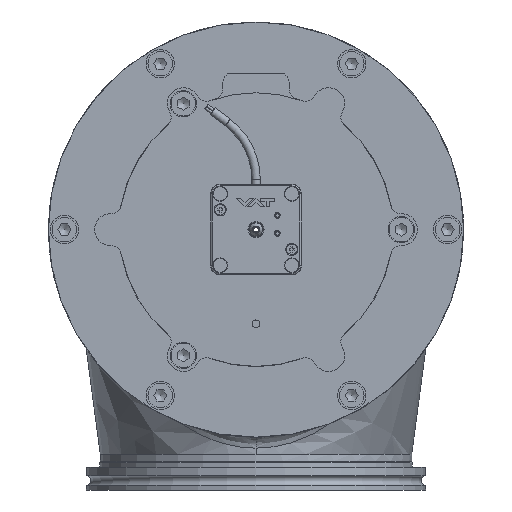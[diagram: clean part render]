
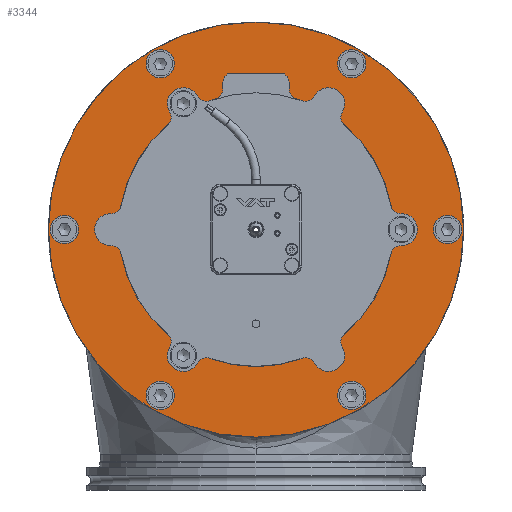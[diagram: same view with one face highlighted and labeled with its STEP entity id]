
A CAD part, left-side view. The second image highlights one B-rep face of the part: STEP entity #3344.
In plain terms, the highlighted planar face has unit normal (-1, 0, 0).
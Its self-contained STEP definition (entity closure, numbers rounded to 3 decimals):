
#3344=ADVANCED_FACE('BCT_REF_39971',(#4756,#4757,#4758,#4759,#4760,#4761,
#4762,#4763,#4764,#4765,#4766),#3894,.T.);
#3894=PLANE('',#13476);
#4222=CIRCLE('',#13465,3.4);
#4223=CIRCLE('',#13466,3.4);
#4224=CIRCLE('',#13467,3.4);
#4225=CIRCLE('',#13468,7.5);
#4226=CIRCLE('',#13469,7.5);
#4227=CIRCLE('',#13470,7.5);
#4228=CIRCLE('',#13471,7.5);
#4229=CIRCLE('',#13472,7.5);
#4230=CIRCLE('',#13473,7.5);
#4231=CIRCLE('',#13474,72.645);
#4232=CIRCLE('',#13475,110.);
#4756=FACE_BOUND('',#5539,.T.);
#4757=FACE_BOUND('',#5540,.T.);
#4758=FACE_BOUND('',#5541,.T.);
#4759=FACE_BOUND('',#5542,.T.);
#4760=FACE_BOUND('',#5543,.T.);
#4761=FACE_BOUND('',#5544,.T.);
#4762=FACE_BOUND('',#5545,.T.);
#4763=FACE_BOUND('',#5546,.T.);
#4764=FACE_BOUND('',#5547,.T.);
#4765=FACE_BOUND('',#5548,.T.);
#4766=FACE_BOUND('',#5549,.T.);
#5539=EDGE_LOOP('',(#7607));
#5540=EDGE_LOOP('',(#7608));
#5541=EDGE_LOOP('',(#7609));
#5542=EDGE_LOOP('',(#7610));
#5543=EDGE_LOOP('',(#7611));
#5544=EDGE_LOOP('',(#7612));
#5545=EDGE_LOOP('',(#7613));
#5546=EDGE_LOOP('',(#7614));
#5547=EDGE_LOOP('',(#7615));
#5548=EDGE_LOOP('',(#7616));
#5549=EDGE_LOOP('',(#7617));
#7607=ORIENTED_EDGE('',*,*,#10879,.T.);
#7608=ORIENTED_EDGE('',*,*,#10880,.T.);
#7609=ORIENTED_EDGE('',*,*,#10881,.T.);
#7610=ORIENTED_EDGE('',*,*,#10882,.T.);
#7611=ORIENTED_EDGE('',*,*,#10883,.T.);
#7612=ORIENTED_EDGE('',*,*,#10884,.T.);
#7613=ORIENTED_EDGE('',*,*,#10885,.T.);
#7614=ORIENTED_EDGE('',*,*,#10886,.T.);
#7615=ORIENTED_EDGE('',*,*,#10887,.T.);
#7616=ORIENTED_EDGE('',*,*,#10888,.T.);
#7617=ORIENTED_EDGE('',*,*,#10889,.T.);
#9581=VERTEX_POINT('',#19514);
#9582=VERTEX_POINT('',#19516);
#9583=VERTEX_POINT('',#19518);
#9584=VERTEX_POINT('',#19520);
#9585=VERTEX_POINT('',#19522);
#9586=VERTEX_POINT('',#19524);
#9587=VERTEX_POINT('',#19526);
#9588=VERTEX_POINT('',#19528);
#9589=VERTEX_POINT('',#19530);
#9590=VERTEX_POINT('',#19532);
#9591=VERTEX_POINT('',#19534);
#10879=EDGE_CURVE('',#9581,#9581,#4222,.T.);
#10880=EDGE_CURVE('',#9582,#9582,#4223,.T.);
#10881=EDGE_CURVE('',#9583,#9583,#4224,.T.);
#10882=EDGE_CURVE('',#9584,#9584,#4225,.T.);
#10883=EDGE_CURVE('',#9585,#9585,#4226,.T.);
#10884=EDGE_CURVE('BCT_REF_49088',#9586,#9586,#4227,.T.);
#10885=EDGE_CURVE('',#9587,#9587,#4228,.T.);
#10886=EDGE_CURVE('',#9588,#9588,#4229,.T.);
#10887=EDGE_CURVE('BCT_REF_49088',#9589,#9589,#4230,.T.);
#10888=EDGE_CURVE('',#9590,#9590,#4231,.T.);
#10889=EDGE_CURVE('',#9591,#9591,#4232,.T.);
#13465=AXIS2_PLACEMENT_3D('',#19513,#15725,#15726);
#13466=AXIS2_PLACEMENT_3D('',#19515,#15727,#15728);
#13467=AXIS2_PLACEMENT_3D('',#19517,#15729,#15730);
#13468=AXIS2_PLACEMENT_3D('',#19519,#15731,#15732);
#13469=AXIS2_PLACEMENT_3D('',#19521,#15733,#15734);
#13470=AXIS2_PLACEMENT_3D('',#19523,#15735,#15736);
#13471=AXIS2_PLACEMENT_3D('',#19525,#15737,#15738);
#13472=AXIS2_PLACEMENT_3D('',#19527,#15739,#15740);
#13473=AXIS2_PLACEMENT_3D('',#19529,#15741,#15742);
#13474=AXIS2_PLACEMENT_3D('',#19531,#15743,#15744);
#13475=AXIS2_PLACEMENT_3D('',#19533,#15745,#15746);
#13476=AXIS2_PLACEMENT_3D('',#19535,#15747,#15748);
#15725=DIRECTION('',(1.,0.,0.));
#15726=DIRECTION('',(0.,-0.866,0.5));
#15727=DIRECTION('',(1.,0.,0.));
#15728=DIRECTION('',(0.,0.866,0.5));
#15729=DIRECTION('',(1.,0.,0.));
#15730=DIRECTION('',(0.,0.,-1.));
#15731=DIRECTION('',(1.,0.,0.));
#15732=DIRECTION('',(0.,-0.866,-0.5));
#15733=DIRECTION('',(1.,0.,0.));
#15734=DIRECTION('',(0.,-0.866,0.5));
#15735=DIRECTION('',(1.,0.,0.));
#15736=DIRECTION('',(0.,0.,1.));
#15737=DIRECTION('',(1.,0.,0.));
#15738=DIRECTION('',(0.,0.866,0.5));
#15739=DIRECTION('',(1.,0.,0.));
#15740=DIRECTION('',(0.,0.866,-0.5));
#15741=DIRECTION('',(1.,0.,0.));
#15742=DIRECTION('',(0.,0.,-1.));
#15743=DIRECTION('',(1.,0.,0.));
#15744=DIRECTION('',(0.,0.,1.));
#15745=DIRECTION('',(-1.,0.,0.));
#15746=DIRECTION('',(0.,0.,1.));
#15747=DIRECTION('',(-1.,0.,0.));
#15748=DIRECTION('',(0.,0.,1.));
#19513=CARTESIAN_POINT('',(0.,-66.684,-38.5));
#19514=CARTESIAN_POINT('',(0.,-69.628,-36.8));
#19515=CARTESIAN_POINT('',(0.,0.,77.));
#19516=CARTESIAN_POINT('',(0.,2.944,78.7));
#19517=CARTESIAN_POINT('',(0.,66.684,-38.5));
#19518=CARTESIAN_POINT('',(0.,66.684,-41.9));
#19519=CARTESIAN_POINT('',(0.,87.902,-50.75));
#19520=CARTESIAN_POINT('',(0.,81.406,-54.5));
#19521=CARTESIAN_POINT('',(0.,0.,-101.5));
#19522=CARTESIAN_POINT('',(0.,-6.495,-97.75));
#19523=CARTESIAN_POINT('',(0.,-87.902,-50.75));
#19524=CARTESIAN_POINT('',(0.,-87.902,-43.25));
#19525=CARTESIAN_POINT('',(0.,-87.902,50.75));
#19526=CARTESIAN_POINT('',(0.,-81.406,54.5));
#19527=CARTESIAN_POINT('',(0.,0.,101.5));
#19528=CARTESIAN_POINT('',(0.,6.495,97.75));
#19529=CARTESIAN_POINT('',(0.,87.902,50.75));
#19530=CARTESIAN_POINT('',(0.,87.902,43.25));
#19531=CARTESIAN_POINT('',(0.,0.,0.));
#19532=CARTESIAN_POINT('',(0.,0.,72.645));
#19533=CARTESIAN_POINT('',(0.,0.,0.));
#19534=CARTESIAN_POINT('',(0.,0.,110.));
#19535=CARTESIAN_POINT('',(0.,72.145,0.));
